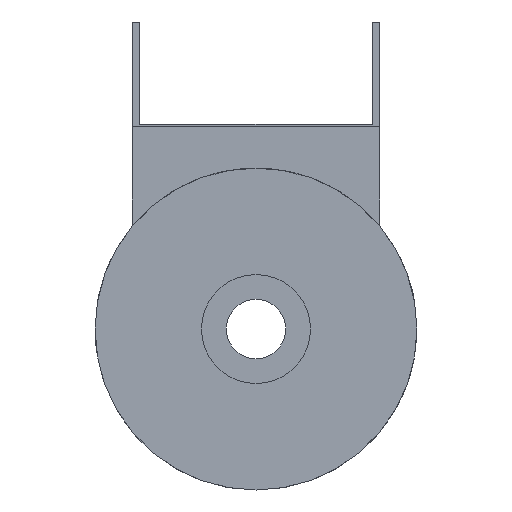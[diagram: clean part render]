
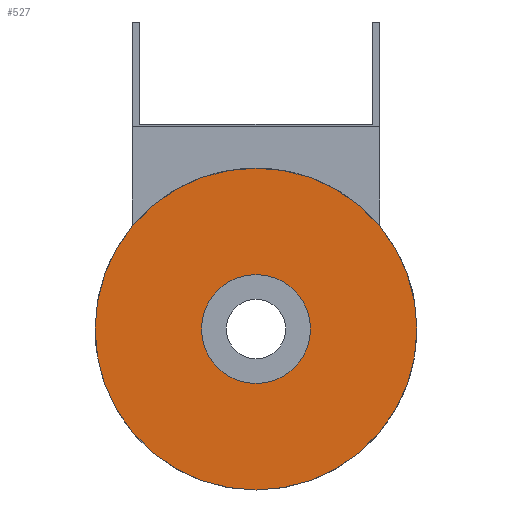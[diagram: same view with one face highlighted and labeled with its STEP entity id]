
A CAD part, front view. The second image highlights one B-rep face of the part: STEP entity #527.
In plain terms, the highlighted planar face has unit normal (0, -1, 0).
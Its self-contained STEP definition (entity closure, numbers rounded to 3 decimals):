
#1=CARTESIAN_POINT('',(0.,0.,0.));
#2=DIRECTION('',(0.,1.,0.));
#3=DIRECTION('',(1.,0.,0.));
#4=AXIS2_PLACEMENT_3D('',#1,#2,#3);
#6=CARTESIAN_POINT('',(0.,0.,0.));
#7=DIRECTION('',(0.,1.,0.));
#8=DIRECTION('',(-1.,0.,0.));
#9=AXIS2_PLACEMENT_3D('',#6,#7,#8);
#11=CARTESIAN_POINT('',(0.,0.,0.));
#12=DIRECTION('',(0.,1.,0.));
#13=DIRECTION('',(1.,0.,0.));
#14=AXIS2_PLACEMENT_3D('',#11,#12,#13);
#16=CARTESIAN_POINT('',(0.,0.,0.));
#17=DIRECTION('',(0.,1.,0.));
#18=DIRECTION('',(-1.,0.,0.));
#19=AXIS2_PLACEMENT_3D('',#16,#17,#18);
#406=CARTESIAN_POINT('',(32.5,0.,0.));
#407=CARTESIAN_POINT('',(-32.5,0.,0.));
#408=VERTEX_POINT('',#406);
#409=VERTEX_POINT('',#407);
#414=CARTESIAN_POINT('',(11.,0.,0.));
#415=VERTEX_POINT('',#414);
#416=CARTESIAN_POINT('',(-11.,0.,0.));
#417=VERTEX_POINT('',#416);
#510=CARTESIAN_POINT('',(0.,0.,0.));
#511=DIRECTION('',(0.,1.,0.));
#512=DIRECTION('',(1.,0.,0.));
#513=AXIS2_PLACEMENT_3D('',#510,#511,#512);
#514=PLANE('',#513);
#516=ORIENTED_EDGE('',*,*,#515,.T.);
#518=ORIENTED_EDGE('',*,*,#517,.T.);
#519=EDGE_LOOP('',(#516,#518));
#520=FACE_OUTER_BOUND('',#519,.F.);
#522=ORIENTED_EDGE('',*,*,#521,.F.);
#524=ORIENTED_EDGE('',*,*,#523,.F.);
#525=EDGE_LOOP('',(#522,#524));
#526=FACE_BOUND('',#525,.F.);
#527=ADVANCED_FACE('',(#520,#526),#514,.F.);
#5=CIRCLE('',#4,32.5);
#10=CIRCLE('',#9,32.5);
#15=CIRCLE('',#14,11.);
#20=CIRCLE('',#19,11.);
#515=EDGE_CURVE('',#408,#409,#5,.T.);
#517=EDGE_CURVE('',#409,#408,#10,.T.);
#521=EDGE_CURVE('',#415,#417,#15,.T.);
#523=EDGE_CURVE('',#417,#415,#20,.T.);
